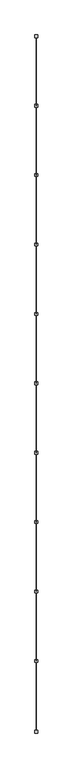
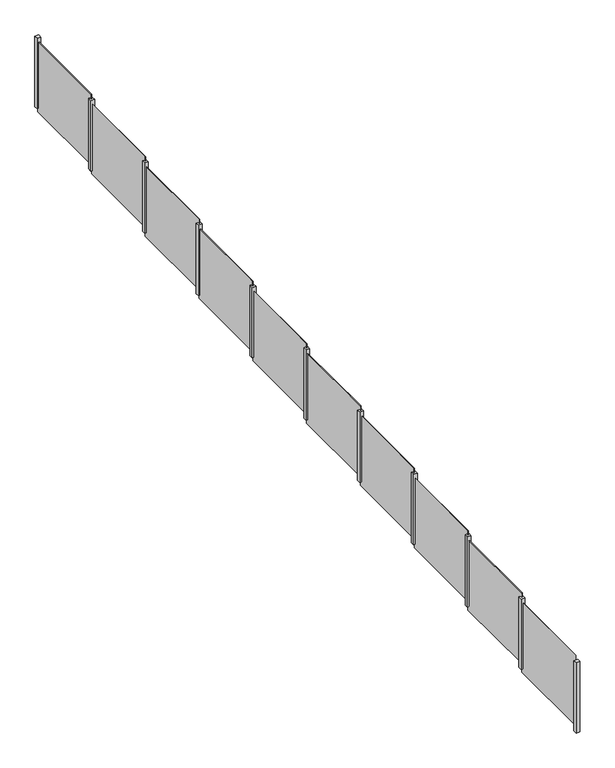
"""IFC4 building model written with IfcOpenShell, lengths in millimetres: railing geometry, REJA_PERIMETRAL_2000mm."""

from ifc_helpers import new_model, si_unit, frame, origin, place, context, project, spatial, polyline, outline, extrude, source, transform, mapped, element, save


def railing_19e960b4(model_context):
    return source(origin(), model_context, "Body", "SweptSolid", [
        extrude(outline(polyline([(-23803.2805205, -14804.7635437), (-23803.2805205, -17304.7635437), (-23813.2805205, -17304.7635437), (-23813.2805205, -14804.7635437), (-23803.2805205, -14804.7635437)])), frame((0.0, 0.0, -986.0231238), z_axis=(0.0, 0.0, 1.0), x_axis=(1.0, 0.0, 0.0)), (0.0, 0.0, 1.0), 2000.0),
        extrude(outline(polyline([(-23758.2805205, -14752.7635437), (-23758.2805205, -14852.7635437), (-23858.2805205, -14852.7635437), (-23858.2805205, -14752.7635437), (-23758.2805205, -14752.7635437)])), frame((0.0, 0.0, -860.7524426), z_axis=(0.0, 0.0, 1.0), x_axis=(1.0, 0.0, 0.0)), (0.0, 0.0, 1.0), 2000.0),
        extrude(outline(polyline([(-23803.2805205, -12300.7635437), (-23803.2805205, -14800.7635437), (-23813.2805205, -14800.7635437), (-23813.2805205, -12300.7635437), (-23803.2805205, -12300.7635437)])), frame((0.0, 0.0, -735.4817614), z_axis=(0.0, 0.0, 1.0), x_axis=(1.0, 0.0, 0.0)), (0.0, 0.0, 1.0), 2000.0),
        extrude(outline(polyline([(-23758.2805205, -12248.7635437), (-23758.2805205, -12348.7635437), (-23858.2805205, -12348.7635437), (-23858.2805205, -12248.7635437), (-23758.2805205, -12248.7635437)])), frame((0.0, 0.0, -610.2110802), z_axis=(0.0, 0.0, 1.0), x_axis=(1.0, 0.0, 0.0)), (0.0, 0.0, 1.0), 2000.0),
        extrude(outline(polyline([(-23803.2805205, -9796.7635437), (-23803.2805205, -12296.7635437), (-23813.2805205, -12296.7635437), (-23813.2805205, -9796.7635437), (-23803.2805205, -9796.7635437)])), frame((0.0, 0.0, -484.940399), z_axis=(0.0, 0.0, 1.0), x_axis=(1.0, 0.0, 0.0)), (0.0, 0.0, 1.0), 2000.0),
        extrude(outline(polyline([(-23758.2805205, -9744.7635437), (-23758.2805205, -9844.7635437), (-23858.2805205, -9844.7635437), (-23858.2805205, -9744.7635437), (-23758.2805205, -9744.7635437)])), frame((0.0, 0.0, -359.6697178), z_axis=(0.0, 0.0, 1.0), x_axis=(1.0, 0.0, 0.0)), (0.0, 0.0, 1.0), 2000.0),
        extrude(outline(polyline([(-23803.2805205, -7292.7635437), (-23803.2805205, -9792.7635437), (-23813.2805205, -9792.7635437), (-23813.2805205, -7292.7635437), (-23803.2805205, -7292.7635437)])), frame((0.0, 0.0, -234.3990366), z_axis=(0.0, 0.0, 1.0), x_axis=(1.0, 0.0, 0.0)), (0.0, 0.0, 1.0), 2000.0),
        extrude(outline(polyline([(-23758.2805205, -7240.7635437), (-23758.2805205, -7340.7635437), (-23858.2805205, -7340.7635437), (-23858.2805205, -7240.7635437), (-23758.2805205, -7240.7635437)])), frame((0.0, 0.0, -109.1283554), z_axis=(0.0, 0.0, 1.0), x_axis=(1.0, 0.0, 0.0)), (0.0, 0.0, 1.0), 2000.0),
        extrude(outline(polyline([(-23803.2805205, -4788.7635437), (-23803.2805205, -7288.7635437), (-23813.2805205, -7288.7635437), (-23813.2805205, -4788.7635437), (-23803.2805205, -4788.7635437)])), frame((0.0, 0.0, 16.1423258), z_axis=(0.0, 0.0, 1.0), x_axis=(1.0, 0.0, 0.0)), (0.0, 0.0, 1.0), 2000.0),
        extrude(outline(polyline([(-23758.2805205, -4736.7635437), (-23758.2805205, -4836.7635437), (-23858.2805205, -4836.7635437), (-23858.2805205, -4736.7635437), (-23758.2805205, -4736.7635437)])), frame((0.0, 0.0, 141.413007), z_axis=(0.0, 0.0, 1.0), x_axis=(1.0, 0.0, 0.0)), (0.0, 0.0, 1.0), 2000.0),
        extrude(outline(polyline([(-23803.2805205, -2284.7635437), (-23803.2805205, -4784.7635437), (-23813.2805205, -4784.7635437), (-23813.2805205, -2284.7635437), (-23803.2805205, -2284.7635437)])), frame((0.0, 0.0, 266.6836882), z_axis=(0.0, 0.0, 1.0), x_axis=(1.0, 0.0, 0.0)), (0.0, 0.0, 1.0), 2000.0),
        extrude(outline(polyline([(-23758.2805205, -2232.7635437), (-23758.2805205, -2332.7635437), (-23858.2805205, -2332.7635437), (-23858.2805205, -2232.7635437), (-23758.2805205, -2232.7635437)])), frame((0.0, 0.0, 391.9543694), z_axis=(0.0, 0.0, 1.0), x_axis=(1.0, 0.0, 0.0)), (0.0, 0.0, 1.0), 2000.0),
        extrude(outline(polyline([(-23803.2805205, 219.2364563), (-23803.2805205, -2280.7635437), (-23813.2805205, -2280.7635437), (-23813.2805205, 219.2364563), (-23803.2805205, 219.2364563)])), frame((0.0, 0.0, 517.2250505), z_axis=(0.0, 0.0, 1.0), x_axis=(1.0, 0.0, 0.0)), (0.0, 0.0, 1.0), 2000.0),
        extrude(outline(polyline([(-23758.2805205, 271.2364563), (-23758.2805205, 171.2364563), (-23858.2805205, 171.2364563), (-23858.2805205, 271.2364563), (-23758.2805205, 271.2364563)])), frame((0.0, 0.0, 642.4957317), z_axis=(0.0, 0.0, 1.0), x_axis=(1.0, 0.0, 0.0)), (0.0, 0.0, 1.0), 2000.0),
        extrude(outline(polyline([(-23803.2805205, 2723.2364563), (-23803.2805205, 223.2364563), (-23813.2805205, 223.2364563), (-23813.2805205, 2723.2364563), (-23803.2805205, 2723.2364563)])), frame((0.0, 0.0, 767.7664129), z_axis=(0.0, 0.0, 1.0), x_axis=(1.0, 0.0, 0.0)), (0.0, 0.0, 1.0), 2000.0),
        extrude(outline(polyline([(-23758.2805205, 2775.2364563), (-23758.2805205, 2675.2364563), (-23858.2805205, 2675.2364563), (-23858.2805205, 2775.2364563), (-23758.2805205, 2775.2364563)])), frame((0.0, 0.0, 893.0370941), z_axis=(0.0, 0.0, 1.0), x_axis=(1.0, 0.0, 0.0)), (0.0, 0.0, 1.0), 2000.0),
        extrude(outline(polyline([(-23803.2805205, 5227.2364563), (-23803.2805205, 2727.2364563), (-23813.2805205, 2727.2364563), (-23813.2805205, 5227.2364563), (-23803.2805205, 5227.2364563)])), frame((0.0, 0.0, 1018.3077753), z_axis=(0.0, 0.0, 1.0), x_axis=(1.0, 0.0, 0.0)), (0.0, 0.0, 1.0), 2000.0),
        extrude(outline(polyline([(-23758.2805205, 5279.2364563), (-23758.2805205, 5179.2364563), (-23858.2805205, 5179.2364563), (-23858.2805205, 5279.2364563), (-23758.2805205, 5279.2364563)])), frame((0.0, 0.0, 1143.5784565), z_axis=(0.0, 0.0, 1.0), x_axis=(1.0, 0.0, 0.0)), (0.0, 0.0, 1.0), 2000.0),
        extrude(outline(polyline([(-23803.2805205, 7731.2364563), (-23803.2805205, 5231.2364563), (-23813.2805205, 5231.2364563), (-23813.2805205, 7731.2364563), (-23803.2805205, 7731.2364563)])), frame((0.0, 0.0, 1268.8491377), z_axis=(0.0, 0.0, 1.0), x_axis=(1.0, 0.0, 0.0)), (0.0, 0.0, 1.0), 2000.0),
        extrude(outline(polyline([(-23758.2805205, -17306.7635437), (-23758.2805205, -17406.7635437), (-23858.2805205, -17406.7635437), (-23858.2805205, -17306.7635437), (-23758.2805205, -17306.7635437)])), frame((0.0, 0.0, -1116.2966277), z_axis=(0.0, 0.0, 1.0), x_axis=(1.0, 0.0, 0.0)), (0.0, 0.0, 1.0), 2000.0),
        extrude(outline(polyline([(-23758.2805205, 7783.2364563), (-23758.2805205, 7683.2364563), (-23858.2805205, 7683.2364563), (-23858.2805205, 7783.2364563), (-23758.2805205, 7783.2364563)])), frame((0.0, 0.0, 1394.1198189), z_axis=(0.0, 0.0, 1.0), x_axis=(1.0, 0.0, 0.0)), (0.0, 0.0, 1.0), 2000.0),
    ])


if __name__ == "__main__":
    model = new_model("IFC4")
    model_context = context("Model", 3, world=origin())
    ifc_project = project(units=[si_unit("LENGTHUNIT", "METRE", prefix="MILLI")], contexts=[model_context])
    site = spatial("IfcSite", under=ifc_project)
    building = spatial("IfcBuilding", under=site)
    placement = place(None, origin())
    railing_shape = railing_19e960b4(model_context)
    element("IfcRailing", 1, ObjectType="REJA_PERIMETRAL_2000mm", at=placement, inside=building, context=model_context, shape_type="MappedRepresentation", body=[
        mapped(railing_shape, transform((0.0, 0.0, 0.0), x_axis=(1.0, 0.0, 0.0), y_axis=(0.0, 1.0, 0.0), z_axis=(0.0, 0.0, 1.0))),
    ])
    save(model, "model.ifc")
